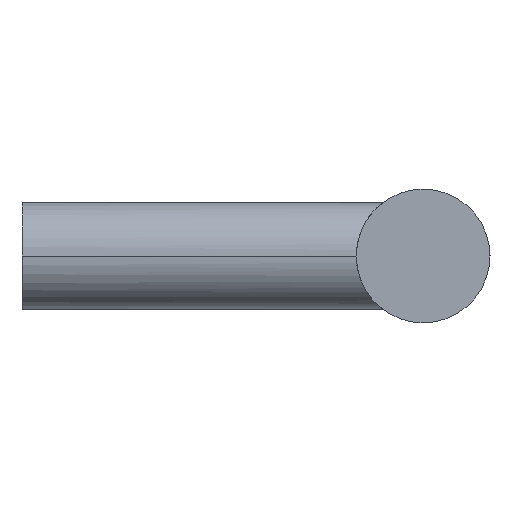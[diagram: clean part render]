
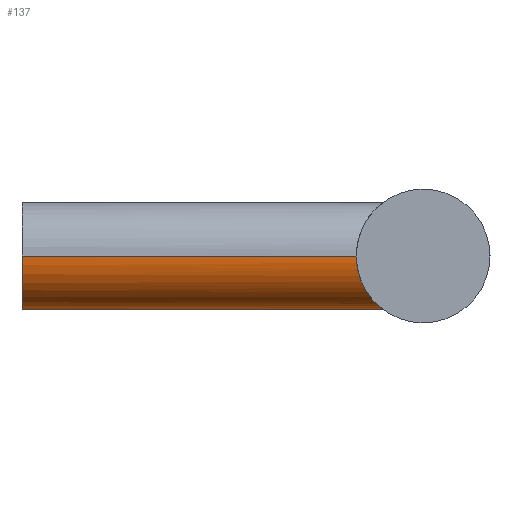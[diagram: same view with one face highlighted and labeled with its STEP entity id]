
A CAD part, left-side view. The second image highlights one B-rep face of the part: STEP entity #137.
In plain terms, the highlighted cylindrical face has radius 4 mm (diameter 8 mm), a partial arc.
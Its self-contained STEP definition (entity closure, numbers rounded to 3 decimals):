
#131 = VERTEX_POINT( '', #295 );
#137 = ADVANCED_FACE( '', ( #301 ), #302, .T. );
#139 = VERTEX_POINT( '', #304 );
#161 = EDGE_CURVE( '', #131, #139, #332, .T. );
#165 = VERTEX_POINT( '', #337 );
#189 = VERTEX_POINT( '', #366 );
#195 = EDGE_CURVE( '', #189, #139, #372, .T. );
#209 = EDGE_CURVE( '', #189, #165, #387, .T. );
#229 = EDGE_CURVE( '', #131, #165, #407, .T. );
#295 = CARTESIAN_POINT( '', ( 4., 0., 0. ) );
#301 = FACE_OUTER_BOUND( '', #514, .T. );
#302 = CYLINDRICAL_SURFACE( '', #515, 4. );
#304 = CARTESIAN_POINT( '', ( 4., -25., 0. ) );
#332 = LINE( '', #551, #552 );
#337 = CARTESIAN_POINT( '', ( -4., 0., 0. ) );
#366 = CARTESIAN_POINT( '', ( -4., -25., 0. ) );
#372 = B_SPLINE_CURVE_WITH_KNOTS( '', 3, ( #653, #654, #655, #656, #657, #658, #659, #660, #661, #662, #663, #664, #665, #666, #667, #668, #669, #670, #671, #672, #673, #674, #675, #676, #677, #678, #679, #680, #681, #682, #683, #684, #685, #686 ), .UNSPECIFIED., .F., .F., ( 4, 2, 2, 2, 2, 2, 2, 2, 2, 2, 2, 2, 2, 2, 2, 2, 4 ), ( 6.46, 7.255, 8.05, 8.845, 9.639, 10.46, 11.28, 12.1, 12.921, 13.741, 14.561, 15.381, 16.202, 16.997, 17.791, 18.586, 19.381 ), .UNSPECIFIED. );
#387 = LINE( '', #721, #722 );
#407 = CIRCLE( '', #748, 4. );
#514 = EDGE_LOOP( '', ( #823, #824, #825, #826 ) );
#515 = AXIS2_PLACEMENT_3D( '', #827, #828, #829 );
#551 = CARTESIAN_POINT( '', ( 4., 0., 0. ) );
#552 = VECTOR( '', #876, 1. );
#653 = CARTESIAN_POINT( '', ( -4., -25., 0. ) );
#654 = CARTESIAN_POINT( '', ( -4., -25., -0.265 ) );
#655 = CARTESIAN_POINT( '', ( -3.973, -25.021, -0.535 ) );
#656 = CARTESIAN_POINT( '', ( -3.865, -25.107, -1.064 ) );
#657 = CARTESIAN_POINT( '', ( -3.784, -25.171, -1.323 ) );
#658 = CARTESIAN_POINT( '', ( -3.575, -25.333, -1.813 ) );
#659 = CARTESIAN_POINT( '', ( -3.447, -25.431, -2.045 ) );
#660 = CARTESIAN_POINT( '', ( -3.158, -25.645, -2.468 ) );
#661 = CARTESIAN_POINT( '', ( -2.997, -25.761, -2.66 ) );
#662 = CARTESIAN_POINT( '', ( -2.654, -25.996, -3.002 ) );
#663 = CARTESIAN_POINT( '', ( -2.459, -26.124, -3.165 ) );
#664 = CARTESIAN_POINT( '', ( -2.035, -26.379, -3.453 ) );
#665 = CARTESIAN_POINT( '', ( -1.807, -26.505, -3.578 ) );
#666 = CARTESIAN_POINT( '', ( -1.324, -26.728, -3.784 ) );
#667 = CARTESIAN_POINT( '', ( -1.07, -26.825, -3.864 ) );
#668 = CARTESIAN_POINT( '', ( -0.545, -26.962, -3.972 ) );
#669 = CARTESIAN_POINT( '', ( -0.273, -27., -4. ) );
#670 = CARTESIAN_POINT( '', ( 0.273, -27., -4. ) );
#671 = CARTESIAN_POINT( '', ( 0.545, -26.962, -3.972 ) );
#672 = CARTESIAN_POINT( '', ( 1.07, -26.825, -3.864 ) );
#673 = CARTESIAN_POINT( '', ( 1.324, -26.728, -3.784 ) );
#674 = CARTESIAN_POINT( '', ( 1.807, -26.505, -3.578 ) );
#675 = CARTESIAN_POINT( '', ( 2.035, -26.379, -3.453 ) );
#676 = CARTESIAN_POINT( '', ( 2.459, -26.124, -3.165 ) );
#677 = CARTESIAN_POINT( '', ( 2.654, -25.996, -3.002 ) );
#678 = CARTESIAN_POINT( '', ( 2.997, -25.761, -2.66 ) );
#679 = CARTESIAN_POINT( '', ( 3.158, -25.645, -2.468 ) );
#680 = CARTESIAN_POINT( '', ( 3.447, -25.431, -2.045 ) );
#681 = CARTESIAN_POINT( '', ( 3.575, -25.333, -1.813 ) );
#682 = CARTESIAN_POINT( '', ( 3.784, -25.171, -1.323 ) );
#683 = CARTESIAN_POINT( '', ( 3.865, -25.107, -1.064 ) );
#684 = CARTESIAN_POINT( '', ( 3.973, -25.021, -0.535 ) );
#685 = CARTESIAN_POINT( '', ( 4., -25., -0.265 ) );
#686 = CARTESIAN_POINT( '', ( 4., -25., 0. ) );
#721 = CARTESIAN_POINT( '', ( -4., 0., 0. ) );
#722 = VECTOR( '', #931, 1. );
#748 = AXIS2_PLACEMENT_3D( '', #936, #937, #938 );
#823 = ORIENTED_EDGE( '', *, *, #161, .T. );
#824 = ORIENTED_EDGE( '', *, *, #195, .F. );
#825 = ORIENTED_EDGE( '', *, *, #209, .T. );
#826 = ORIENTED_EDGE( '', *, *, #229, .F. );
#827 = CARTESIAN_POINT( '', ( 0., 0., 0. ) );
#828 = DIRECTION( '', ( 0., 1., 0. ) );
#829 = DIRECTION( '', ( 1., 0., 0. ) );
#876 = DIRECTION( '', ( 0., -1., 0. ) );
#931 = DIRECTION( '', ( 0., 1., 0. ) );
#936 = CARTESIAN_POINT( '', ( 0., 0., 0. ) );
#937 = DIRECTION( '', ( 0., 1., 0. ) );
#938 = DIRECTION( '', ( 1., 0., 0. ) );
